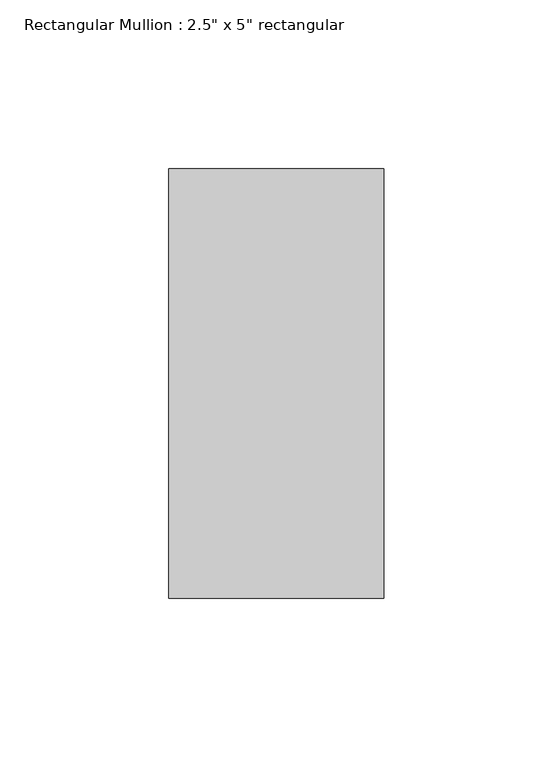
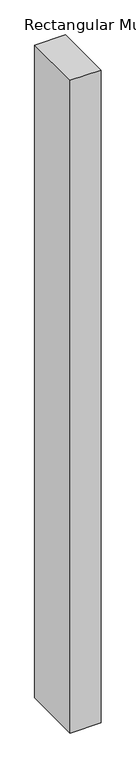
"""IFC4 building model written with IfcOpenShell, lengths in millimetres: member geometry."""

from ifc_helpers import new_model, si_unit, frame, origin, place, context, project, spatial, polyline, outline, extrude, source, transform, mapped, element, save


def member_194437a1(model_context):
    return source(origin(), model_context, "Body", "SweptSolid", [
        extrude(outline(polyline([(0.0, 63.5), (0.0, -63.5), (-63.5, -63.5), (-63.5, 63.5), (0.0, 63.5)])), frame((0.0, 0.0, -1422.4), z_axis=(0.0, 0.0, 1.0), x_axis=(1.0, 0.0, 0.0)), (0.0, 0.0, 1.0), 1422.4),
    ])


if __name__ == "__main__":
    model = new_model("IFC4")
    model_context = context("Model", 3, world=origin())
    ifc_project = project(units=[si_unit("LENGTHUNIT", "METRE", prefix="MILLI")], contexts=[model_context])
    site = spatial("IfcSite", under=ifc_project)
    building = spatial("IfcBuilding", under=site)
    placement = place(None, origin())
    member_shape = member_194437a1(model_context)
    element("IfcMember", 1, ObjectType="Rectangular Mullion : 2.5\" x 5\" rectangular", at=placement, inside=building, context=model_context, shape_type="MappedRepresentation", body=[
        mapped(member_shape, transform((0.0, 0.0, 0.0), x_axis=(1.0, 0.0, 0.0), y_axis=(0.0, 1.0, 0.0), z_axis=(0.0, 0.0, 1.0))),
    ])
    save(model, "model.ifc")
